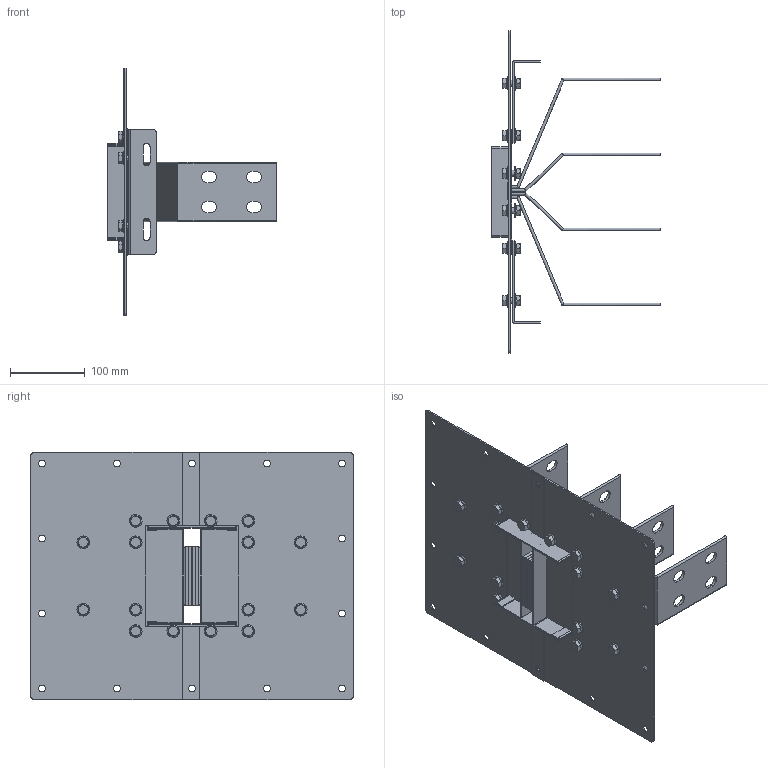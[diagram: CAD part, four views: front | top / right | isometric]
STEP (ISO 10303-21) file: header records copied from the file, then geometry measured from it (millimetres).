
FILE_DESCRIPTION(('CATIA V5 STEP','CAx-IF Rec.Pracs.--- Model Styling and Organization---1.5--- 2016-08-15','CAx-IF Rec.Pracs.---Supplemental Geometry---1.0---2011-11-01','CAx-IF Rec.Pracs.--- Composite Materials ---1.1---2010-07-15'),'2;1');
FILE_NAME('K:\COSCN 2011\32372311_RiduzioneSezioniBarre\03_Studio\__Modelli semplificati\XCP_UB semplificati per studi\XCP-S_UB_4C_Pe_STD_Assieme\Cu\XCP-S_UB_4C_Pe_S_Assieme - 1000A Cu\XCP-S_UB_4C_Pe_S_Assieme - 1000A Cu.stp','2025-05-12T12:55:37+00:00',('Utente Bticino'),('Bticino S.p.A.'),'CATIA Version 5-6 Release 2020 SP5','CATIA V5 STEP AP214 v2','none');
FILE_SCHEMA(('AUTOMOTIVE_DESIGN { 1 0 10303 214 1 1 1 1 }'));
Length unit declared in the file: millimetre
Products named in the file (7): XCP-S_UB_4C_Pe_S_Assieme - 1000A Cu; XCP-S_UB_4C_Pe_S_PaccoBarre_1000 Cu; XCP-S_UB_4C_Pe_S_Lamiere_1000A Cu; Viteria UB H130; Ass Vite+dado M8; Steel hex flanged SCREW M12x16; Steel hex flanged NUT M8
Assembly tree (21 placements, depth 4):
  XCP-S_UB_4C_Pe_S_Assieme - 1000A Cu
    XCP-S_UB_4C_Pe_S_PaccoBarre_1000 Cu
    XCP-S_UB_4C_Pe_S_Lamiere_1000A Cu
    Viteria UB H130
      Ass Vite+dado M8  x16
        Steel hex flanged SCREW M12x16
        Steel hex flanged NUT M8
Bounding box: 225 x 430 x 330 mm (x, y, z)
Volume: 787813.4 mm3; surface area: 663463.2 mm2
Topology: 44 solids, 44 shells, 1148 faces, 2824 edges, 1796 vertices
Faces by surface type: plane 480, cylinder 380, cone 128, bspline 128, torus 32
Entity records: 14965 total; most frequent: CARTESIAN_POINT 3470, ORIENTED_EDGE 2468, DIRECTION 1936, EDGE_CURVE 1234, AXIS2_PLACEMENT_3D 820, VERTEX_POINT 806, VECTOR 732, LINE 732
